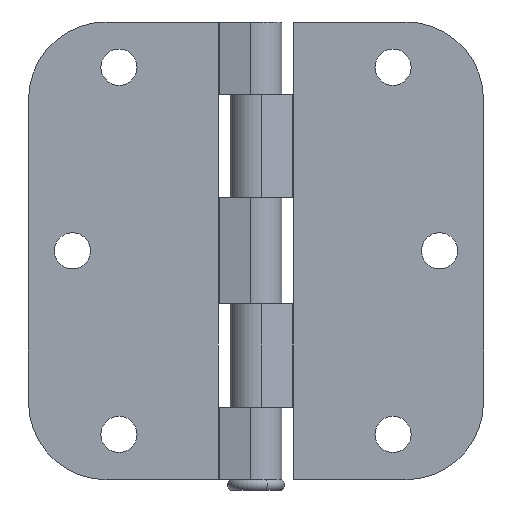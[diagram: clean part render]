
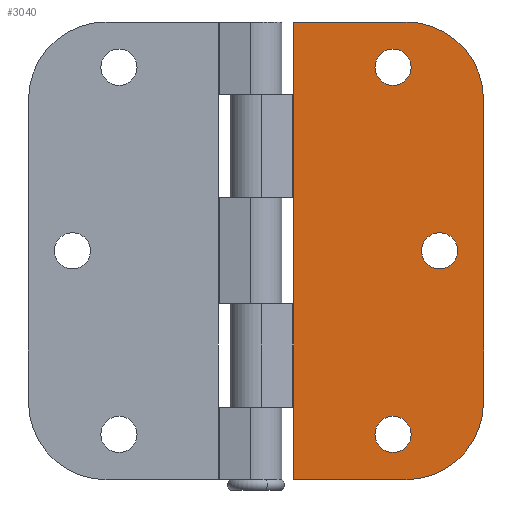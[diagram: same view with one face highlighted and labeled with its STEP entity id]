
A CAD part, front view. The second image highlights one B-rep face of the part: STEP entity #3040.
In plain terms, the highlighted planar face has unit normal (0, -1, 0).
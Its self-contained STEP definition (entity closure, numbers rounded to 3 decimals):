
#15 = LINE ( 'NONE', #233, #1591 ) ;
#26 = CARTESIAN_POINT ( 'NONE',  ( 26.5, -3.5, -39. ) ) ;
#27 = ORIENTED_EDGE ( 'NONE', *, *, #1106, .T. ) ;
#54 = DIRECTION ( 'NONE',  ( 0., -1., 0. ) ) ;
#72 = EDGE_CURVE ( 'NONE', #308, #1457, #2126, .T. ) ;
#76 = CARTESIAN_POINT ( 'NONE',  ( 7.333, -3.5, -10.25 ) ) ;
#78 = EDGE_CURVE ( 'NONE', #2150, #1446, #3577, .T. ) ;
#98 = AXIS2_PLACEMENT_3D ( 'NONE', #253, #54, #1273 ) ;
#127 = LINE ( 'NONE', #1781, #522 ) ;
#137 = ORIENTED_EDGE ( 'NONE', *, *, #1642, .F. ) ;
#207 = LINE ( 'NONE', #395, #899 ) ;
#212 = DIRECTION ( 'NONE',  ( 0., 0., -1. ) ) ;
#219 = DIRECTION ( 'NONE',  ( 0., -1., 0. ) ) ;
#233 = CARTESIAN_POINT ( 'NONE',  ( 7., -3.5, 44.25 ) ) ;
#240 = EDGE_CURVE ( 'NONE', #2143, #2514, #2445, .T. ) ;
#250 = DIRECTION ( 'NONE',  ( 0., 0., 1. ) ) ;
#253 = CARTESIAN_POINT ( 'NONE',  ( 26.5, -3.5, 35.5 ) ) ;
#265 = AXIS2_PLACEMENT_3D ( 'NONE', #1983, #219, #2270 ) ;
#305 = ORIENTED_EDGE ( 'NONE', *, *, #1097, .F. ) ;
#308 = VERTEX_POINT ( 'NONE', #813 ) ;
#325 = CIRCLE ( 'NONE', #98, 3.5 ) ;
#366 = CARTESIAN_POINT ( 'NONE',  ( 35.5, -3.5, 0. ) ) ;
#377 = VECTOR ( 'NONE', #3172, 1000. ) ;
#395 = CARTESIAN_POINT ( 'NONE',  ( 7.333, -3.5, -44.25 ) ) ;
#436 = EDGE_CURVE ( 'NONE', #1918, #3406, #1814, .T. ) ;
#456 = CARTESIAN_POINT ( 'NONE',  ( 7.333, -3.5, -44.25 ) ) ;
#478 = CARTESIAN_POINT ( 'NONE',  ( 26.5, -3.5, 35.5 ) ) ;
#492 = CARTESIAN_POINT ( 'NONE',  ( 7.333, -3.5, -44.25 ) ) ;
#522 = VECTOR ( 'NONE', #2970, 1000. ) ;
#556 = CARTESIAN_POINT ( 'NONE',  ( 44., -3.5, -29.25 ) ) ;
#640 = CARTESIAN_POINT ( 'NONE',  ( 44., -3.5, -44.25 ) ) ;
#647 = DIRECTION ( 'NONE',  ( 0., 0., -1. ) ) ;
#648 = FACE_BOUND ( 'NONE', #849, .T. ) ;
#676 = CARTESIAN_POINT ( 'NONE',  ( 26.5, -3.5, 32. ) ) ;
#726 = FACE_BOUND ( 'NONE', #1082, .T. ) ;
#727 = CARTESIAN_POINT ( 'NONE',  ( 7.333, -3.5, 30.25 ) ) ;
#731 = DIRECTION ( 'NONE',  ( 0., 0., 1. ) ) ;
#744 = PLANE ( 'NONE',  #2870 ) ;
#802 = CARTESIAN_POINT ( 'NONE',  ( 7., -3.5, -44.25 ) ) ;
#803 = AXIS2_PLACEMENT_3D ( 'NONE', #2104, #2976, #647 ) ;
#811 = CARTESIAN_POINT ( 'NONE',  ( 29., -3.5, -29.25 ) ) ;
#813 = CARTESIAN_POINT ( 'NONE',  ( 44., -3.5, 29.25 ) ) ;
#822 = DIRECTION ( 'NONE',  ( 0., -1., 0. ) ) ;
#838 = DIRECTION ( 'NONE',  ( 0., 0., -1. ) ) ;
#840 = CARTESIAN_POINT ( 'NONE',  ( 7.333, -3.5, 44.25 ) ) ;
#849 = EDGE_LOOP ( 'NONE', ( #1538, #3405 ) ) ;
#899 = VECTOR ( 'NONE', #731, 1000. ) ;
#911 = CARTESIAN_POINT ( 'NONE',  ( 26.5, -3.5, 39. ) ) ;
#946 = VERTEX_POINT ( 'NONE', #1100 ) ;
#950 = DIRECTION ( 'NONE',  ( 0., -1., 0. ) ) ;
#1048 = CARTESIAN_POINT ( 'NONE',  ( 7.333, -3.5, -44.25 ) ) ;
#1082 = EDGE_LOOP ( 'NONE', ( #3711, #2013 ) ) ;
#1097 = EDGE_CURVE ( 'NONE', #1959, #1457, #15, .T. ) ;
#1100 = CARTESIAN_POINT ( 'NONE',  ( 7.333, -3.5, -30.25 ) ) ;
#1106 = EDGE_CURVE ( 'NONE', #3406, #308, #3686, .T. ) ;
#1135 = DIRECTION ( 'NONE',  ( 1., 0., 0. ) ) ;
#1150 = ORIENTED_EDGE ( 'NONE', *, *, #1308, .T. ) ;
#1180 = CARTESIAN_POINT ( 'NONE',  ( 29., -3.5, -44.25 ) ) ;
#1227 = DIRECTION ( 'NONE',  ( 0., 0., -1. ) ) ;
#1256 = DIRECTION ( 'NONE',  ( 0., 0., -1. ) ) ;
#1270 = CARTESIAN_POINT ( 'NONE',  ( 7., -3.5, -44.25 ) ) ;
#1273 = DIRECTION ( 'NONE',  ( 0., 0., -1. ) ) ;
#1308 = EDGE_CURVE ( 'NONE', #3603, #1918, #1496, .T. ) ;
#1319 = ORIENTED_EDGE ( 'NONE', *, *, #3586, .T. ) ;
#1383 = CIRCLE ( 'NONE', #1978, 3.5 ) ;
#1399 = ORIENTED_EDGE ( 'NONE', *, *, #2480, .F. ) ;
#1446 = VERTEX_POINT ( 'NONE', #2096 ) ;
#1447 = CARTESIAN_POINT ( 'NONE',  ( 7.333, -3.5, -44.25 ) ) ;
#1457 = VERTEX_POINT ( 'NONE', #2242 ) ;
#1496 = LINE ( 'NONE', #1270, #2356 ) ;
#1531 = FACE_BOUND ( 'NONE', #1861, .T. ) ;
#1538 = ORIENTED_EDGE ( 'NONE', *, *, #78, .F. ) ;
#1591 = VECTOR ( 'NONE', #3061, 1000. ) ;
#1595 = EDGE_CURVE ( 'NONE', #3603, #946, #207, .T. ) ;
#1642 = EDGE_CURVE ( 'NONE', #946, #2227, #127, .T. ) ;
#1781 = CARTESIAN_POINT ( 'NONE',  ( 7.333, -3.5, -44.25 ) ) ;
#1808 = AXIS2_PLACEMENT_3D ( 'NONE', #366, #950, #1256 ) ;
#1814 = CIRCLE ( 'NONE', #2756, 15. ) ;
#1861 = EDGE_LOOP ( 'NONE', ( #1399, #3299 ) ) ;
#1918 = VERTEX_POINT ( 'NONE', #1180 ) ;
#1958 = ORIENTED_EDGE ( 'NONE', *, *, #72, .T. ) ;
#1959 = VERTEX_POINT ( 'NONE', #840 ) ;
#1973 = DIRECTION ( 'NONE',  ( 0., -1., 0. ) ) ;
#1978 = AXIS2_PLACEMENT_3D ( 'NONE', #2622, #3419, #3213 ) ;
#1983 = CARTESIAN_POINT ( 'NONE',  ( 26.5, -3.5, -35.5 ) ) ;
#2008 = VECTOR ( 'NONE', #2504, 1000. ) ;
#2013 = ORIENTED_EDGE ( 'NONE', *, *, #3715, .F. ) ;
#2083 = CIRCLE ( 'NONE', #265, 3.5 ) ;
#2096 = CARTESIAN_POINT ( 'NONE',  ( 35.5, -3.5, -3.5 ) ) ;
#2104 = CARTESIAN_POINT ( 'NONE',  ( 29., -3.5, 29.25 ) ) ;
#2106 = LINE ( 'NONE', #456, #2008 ) ;
#2126 = CIRCLE ( 'NONE', #803, 15. ) ;
#2140 = EDGE_CURVE ( 'NONE', #2586, #2688, #3248, .T. ) ;
#2143 = VERTEX_POINT ( 'NONE', #2528 ) ;
#2150 = VERTEX_POINT ( 'NONE', #3107 ) ;
#2167 = DIRECTION ( 'NONE',  ( 0., 0., 1. ) ) ;
#2196 = ORIENTED_EDGE ( 'NONE', *, *, #2731, .T. ) ;
#2205 = FACE_OUTER_BOUND ( 'NONE', #3014, .T. ) ;
#2219 = DIRECTION ( 'NONE',  ( 0., 0., -1. ) ) ;
#2227 = VERTEX_POINT ( 'NONE', #76 ) ;
#2242 = CARTESIAN_POINT ( 'NONE',  ( 29., -3.5, 44.25 ) ) ;
#2249 = AXIS2_PLACEMENT_3D ( 'NONE', #478, #3357, #2219 ) ;
#2270 = DIRECTION ( 'NONE',  ( 0., 0., -1. ) ) ;
#2289 = CIRCLE ( 'NONE', #2249, 3.5 ) ;
#2356 = VECTOR ( 'NONE', #1135, 1000. ) ;
#2375 = VERTEX_POINT ( 'NONE', #911 ) ;
#2427 = ORIENTED_EDGE ( 'NONE', *, *, #1595, .F. ) ;
#2445 = CIRCLE ( 'NONE', #3719, 3.5 ) ;
#2477 = VECTOR ( 'NONE', #2167, 1000. ) ;
#2480 = EDGE_CURVE ( 'NONE', #2375, #2701, #325, .T. ) ;
#2504 = DIRECTION ( 'NONE',  ( 0., 0., -1. ) ) ;
#2514 = VERTEX_POINT ( 'NONE', #26 ) ;
#2528 = CARTESIAN_POINT ( 'NONE',  ( 26.5, -3.5, -32. ) ) ;
#2586 = VERTEX_POINT ( 'NONE', #3308 ) ;
#2601 = LINE ( 'NONE', #1447, #377 ) ;
#2616 = EDGE_CURVE ( 'NONE', #2701, #2375, #2289, .T. ) ;
#2622 = CARTESIAN_POINT ( 'NONE',  ( 35.5, -3.5, 0. ) ) ;
#2678 = ORIENTED_EDGE ( 'NONE', *, *, #2140, .F. ) ;
#2688 = VERTEX_POINT ( 'NONE', #727 ) ;
#2701 = VERTEX_POINT ( 'NONE', #676 ) ;
#2731 = EDGE_CURVE ( 'NONE', #2586, #2227, #2601, .T. ) ;
#2756 = AXIS2_PLACEMENT_3D ( 'NONE', #811, #822, #838 ) ;
#2820 = ORIENTED_EDGE ( 'NONE', *, *, #436, .T. ) ;
#2870 = AXIS2_PLACEMENT_3D ( 'NONE', #802, #3650, #1227 ) ;
#2879 = EDGE_CURVE ( 'NONE', #1446, #2150, #1383, .T. ) ;
#2937 = VECTOR ( 'NONE', #250, 1000. ) ;
#2970 = DIRECTION ( 'NONE',  ( 0., 0., 1. ) ) ;
#2976 = DIRECTION ( 'NONE',  ( 0., -1., 0. ) ) ;
#3014 = EDGE_LOOP ( 'NONE', ( #27, #1958, #305, #1319, #2678, #2196, #137, #2427, #1150, #2820 ) ) ;
#3040 = ADVANCED_FACE ( 'NONE', ( #726, #648, #1531, #2205 ), #744, .T. ) ;
#3061 = DIRECTION ( 'NONE',  ( 1., 0., 0. ) ) ;
#3107 = CARTESIAN_POINT ( 'NONE',  ( 35.5, -3.5, 3.5 ) ) ;
#3172 = DIRECTION ( 'NONE',  ( 0., 0., -1. ) ) ;
#3213 = DIRECTION ( 'NONE',  ( 0., 0., -1. ) ) ;
#3248 = LINE ( 'NONE', #492, #2477 ) ;
#3299 = ORIENTED_EDGE ( 'NONE', *, *, #2616, .F. ) ;
#3308 = CARTESIAN_POINT ( 'NONE',  ( 7.333, -3.5, 10.25 ) ) ;
#3357 = DIRECTION ( 'NONE',  ( 0., -1., 0. ) ) ;
#3405 = ORIENTED_EDGE ( 'NONE', *, *, #2879, .F. ) ;
#3406 = VERTEX_POINT ( 'NONE', #556 ) ;
#3419 = DIRECTION ( 'NONE',  ( 0., -1., 0. ) ) ;
#3577 = CIRCLE ( 'NONE', #1808, 3.5 ) ;
#3586 = EDGE_CURVE ( 'NONE', #1959, #2688, #2106, .T. ) ;
#3603 = VERTEX_POINT ( 'NONE', #1048 ) ;
#3650 = DIRECTION ( 'NONE',  ( 0., -1., 0. ) ) ;
#3686 = LINE ( 'NONE', #640, #2937 ) ;
#3695 = CARTESIAN_POINT ( 'NONE',  ( 26.5, -3.5, -35.5 ) ) ;
#3711 = ORIENTED_EDGE ( 'NONE', *, *, #240, .F. ) ;
#3715 = EDGE_CURVE ( 'NONE', #2514, #2143, #2083, .T. ) ;
#3719 = AXIS2_PLACEMENT_3D ( 'NONE', #3695, #1973, #212 ) ;
